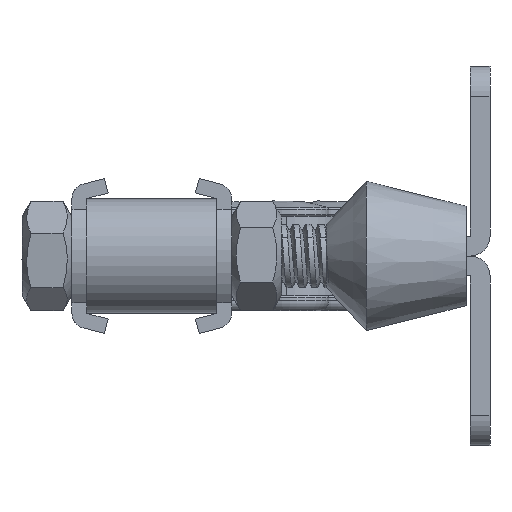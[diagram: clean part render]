
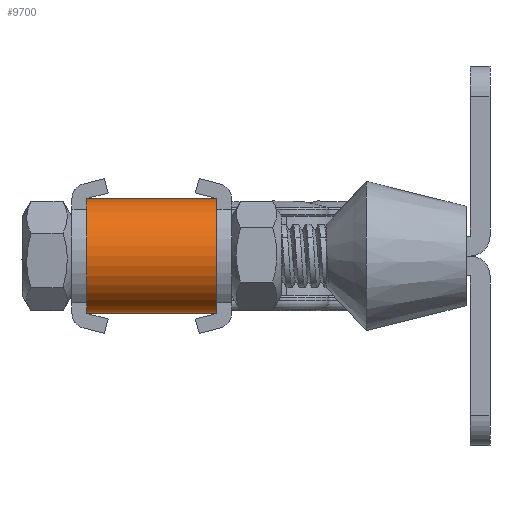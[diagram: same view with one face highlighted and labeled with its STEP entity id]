
A CAD part, left-side view. The second image highlights one B-rep face of the part: STEP entity #9700.
In plain terms, the highlighted cylindrical face has radius 5.733 mm (diameter 11.465 mm), a partial arc.
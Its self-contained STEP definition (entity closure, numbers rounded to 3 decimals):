
#162=CIRCLE('',#10402,5.733);
#169=CIRCLE('',#10412,5.733);
#394=CYLINDRICAL_SURFACE('',#10421,5.733);
#513=LINE('',#13671,#1317);
#664=LINE('',#15728,#1468);
#1317=VECTOR('',#11010,1000.);
#1468=VECTOR('',#11251,1000.);
#2419=FACE_OUTER_BOUND('',#2966,.T.);
#2966=EDGE_LOOP('',(#6791,#6792,#6793,#6794));
#3949=VERTEX_POINT('',#13664);
#3952=VERTEX_POINT('',#13669);
#4067=VERTEX_POINT('',#15134);
#4097=VERTEX_POINT('',#15258);
#4964=EDGE_CURVE('',#3952,#3949,#513,.T.);
#5114=EDGE_CURVE('',#4067,#3952,#162,.T.);
#5148=EDGE_CURVE('',#3949,#4097,#169,.T.);
#5175=EDGE_CURVE('',#4067,#4097,#664,.T.);
#6791=ORIENTED_EDGE('',*,*,#5114,.F.);
#6792=ORIENTED_EDGE('',*,*,#5175,.T.);
#6793=ORIENTED_EDGE('',*,*,#5148,.F.);
#6794=ORIENTED_EDGE('',*,*,#4964,.F.);
#9700=ADVANCED_FACE('',(#2419),#394,.T.);
#10402=AXIS2_PLACEMENT_3D('',#15136,#11168,#11169);
#10412=AXIS2_PLACEMENT_3D('',#15259,#11214,#11215);
#10421=AXIS2_PLACEMENT_3D('',#15727,#11249,#11250);
#11010=DIRECTION('',(0.,0.,-1.));
#11168=DIRECTION('center_axis',(0.,0.,1.));
#11169=DIRECTION('ref_axis',(1.,0.,0.));
#11214=DIRECTION('center_axis',(0.,0.,
-1.));
#11215=DIRECTION('ref_axis',(-1.,0.,0.));
#11249=DIRECTION('center_axis',(0.,0.,-1.));
#11250=DIRECTION('ref_axis',(-1.,0.,0.));
#11251=DIRECTION('',(0.,0.,-1.));
#13664=CARTESIAN_POINT('',(0.,-5.733,12.));
#13669=CARTESIAN_POINT('',(0.,-5.733,25.));
#13671=CARTESIAN_POINT('',(0.,-5.733,25.));
#15134=CARTESIAN_POINT('',(0.,5.733,25.));
#15136=CARTESIAN_POINT('Origin',(0.,0.,25.));
#15258=CARTESIAN_POINT('',(0.,5.733,12.));
#15259=CARTESIAN_POINT('Origin',(0.,0.,12.));
#15727=CARTESIAN_POINT('Origin',(0.,0.,25.));
#15728=CARTESIAN_POINT('',(0.,5.733,25.));
